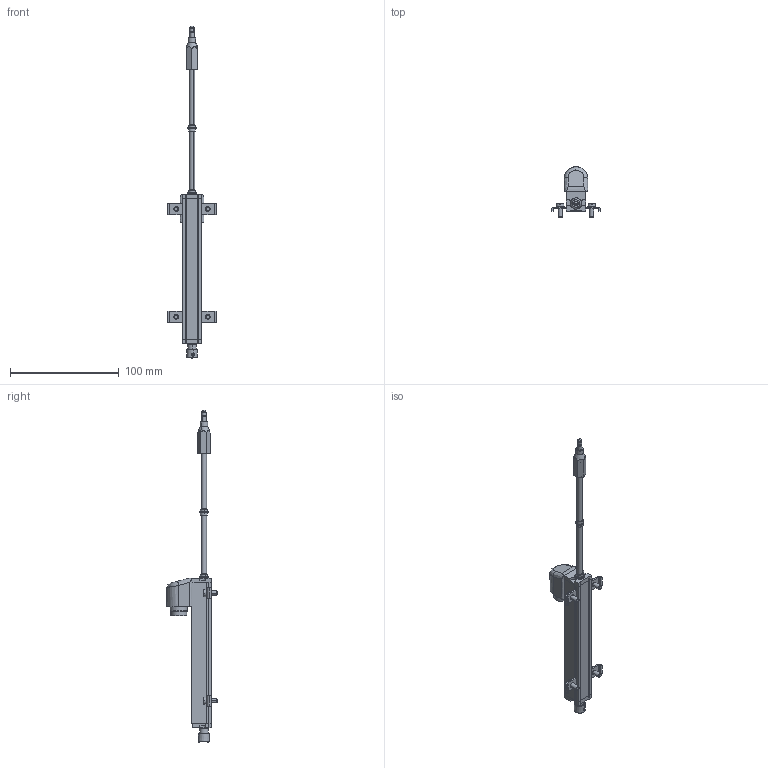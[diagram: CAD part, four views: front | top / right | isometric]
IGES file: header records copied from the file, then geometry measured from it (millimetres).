
Start section: 3D InterOp IGES (Version 23 0 1), Spatial Corp. Copyright (c) 1999-2007.
Global section: file name: burster_8712-100_6oawzp7qxjaf6r91krxopd7vm.igs; native system: Spatial Corp.; preprocessor: 3D InterOp ACIS/IGES; author: TraceParts; organization: TraceParts S.A.; date: 20161129.192136; units: millimetre
Bounding box: 45 x 46.3 x 306 mm (x, y, z)
Surface area: 22846.3 mm2 (no closed solid volume)
Topology: 0 solids, 0 shells, 479 faces, 2482 edges, 2464 vertices
Faces by surface type: revolution 288, extrusion 190, bspline 1
